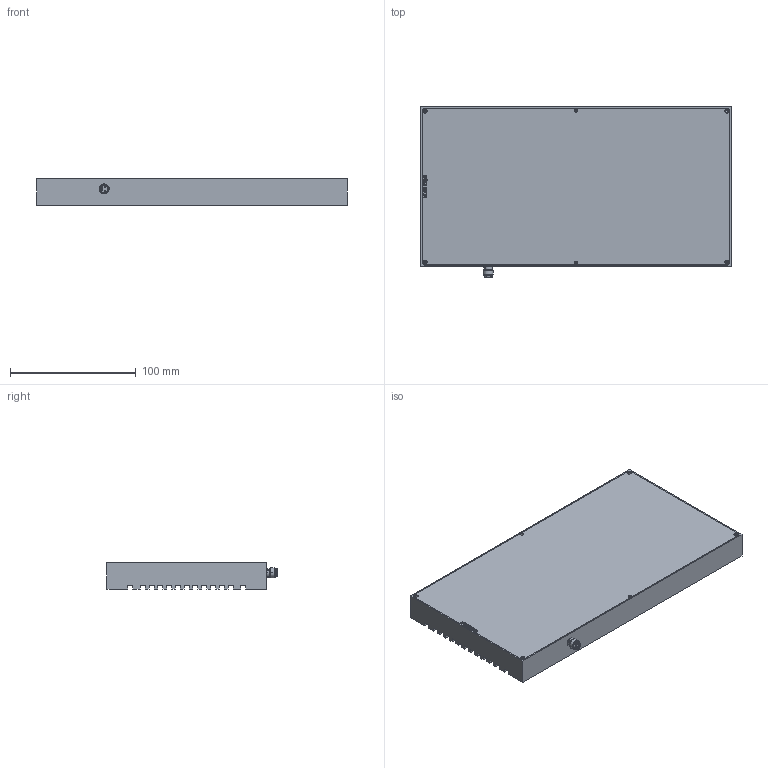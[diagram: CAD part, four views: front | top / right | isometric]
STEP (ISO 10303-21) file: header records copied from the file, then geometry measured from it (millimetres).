
FILE_DESCRIPTION(('STEP AP214'),'1');
FILE_NAME('TL-HL-120-240-Kundenmodell.stp','2019-03-25T13:32:46',(' '),(' '),'Spatial InterOp 3D',' ',' ');
FILE_SCHEMA(('AUTOMOTIVE_DESIGN { 1 0 10303 214 1 1 1 1 }'));
Length unit declared in the file: millimetre
Products named in the file (1): Volumenkörper
Bounding box: 247 x 135.5 x 21 mm (x, y, z)
Volume: 253052.1 mm3; surface area: 168780.4 mm2
Topology: 1 solids, 2 shells, 449 faces, 1149 edges, 719 vertices
Faces by surface type: plane 191, cylinder 160, cone 62, extrusion 20, bspline 8, sphere 4, torus 4
Entity records: 17992 total; most frequent: CARTESIAN_POINT 3690, ORIENTED_EDGE 2202, DIRECTION 2195, EDGE_CURVE 1101, AXIS2_PLACEMENT_3D 768, VERTEX_POINT 719, VECTOR 659, LINE 639
